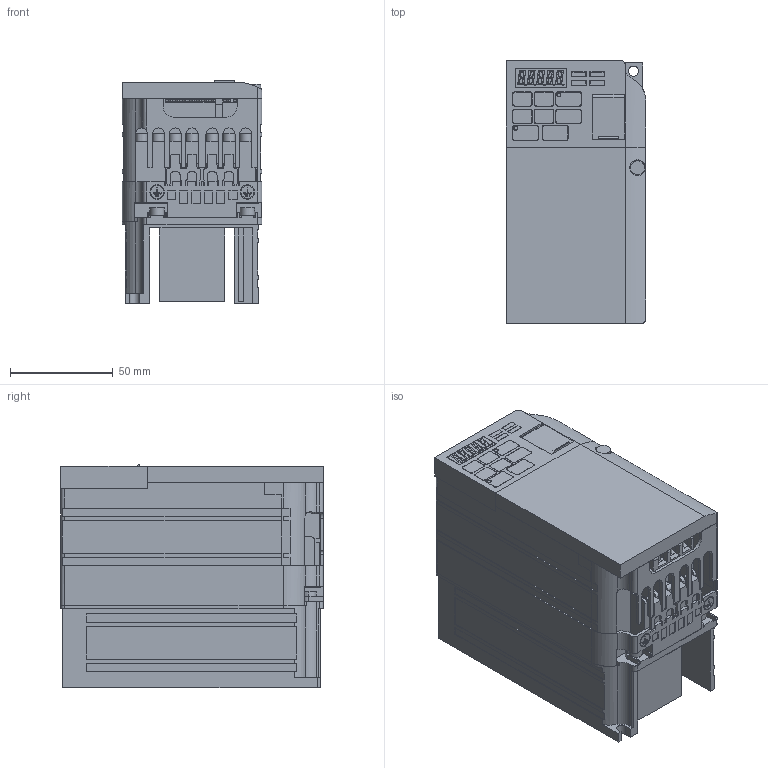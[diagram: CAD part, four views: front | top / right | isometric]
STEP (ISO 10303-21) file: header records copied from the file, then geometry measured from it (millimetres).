
FILE_DESCRIPTION((''),'2;1');
FILE_NAME('V1000_IP20_FRAME_B1_ASM','2010-07-20T',('jc'),('YASKAWA ELECTRIC CORCORATION'),'PRO/ENGINEER BY PARAMETRIC TECHNOLOGY CORPORATION, 2008490','PRO/ENGINEER BY PARAMETRIC TECHNOLOGY CORPORATION, 2008490','');
FILE_SCHEMA(('CONFIG_CONTROL_DESIGN'));
Length unit declared in the file: millimetre
Products named in the file (19): NONE-64765; ASM0038_ASM; NONE-59228; BASE_HEATSINK_A2________ANY_ASM; NONE-47862; ASM0039_ASM; NONE-45252; ASM0040_ASM; NONE-45506; ASM0041_ASM; NONE-68177; ASM0042_ASM; NONE-61154; ASM0043_ASM; NONE-60638; ASM0044_ASM; CIMR_VZ2A0004BAA_ANY_ASM; _2A0004B; V1000_IP20_FRAME_B1_ASM
Assembly tree (18 placements, depth 4):
  V1000_IP20_FRAME_B1_ASM
    CIMR_VZ2A0004BAA_ANY_ASM
      ASM0038_ASM
        NONE-64765
      BASE_HEATSINK_A2________ANY_ASM
        NONE-59228
      ASM0039_ASM
        NONE-47862
      ASM0040_ASM
        NONE-45252
      ASM0041_ASM
        NONE-45506
      ASM0042_ASM
        NONE-68177
      ASM0043_ASM
        NONE-61154
      ASM0044_ASM
        NONE-60638
    _2A0004B
Bounding box: 68 x 128 x 109 mm (x, y, z)
Volume: 612356.4 mm3; surface area: 160024.4 mm2
Topology: 8 solids, 8 shells, 1704 faces, 4639 edges, 3061 vertices
Faces by surface type: plane 1372, cylinder 332
Entity records: 53862 total; most frequent: CARTESIAN_POINT 9565, ORIENTED_EDGE 9278, DIRECTION 8896, EDGE_CURVE 4639, VECTOR 3872, LINE 3872, VERTEX_POINT 3061, AXIS2_PLACEMENT_3D 2512
